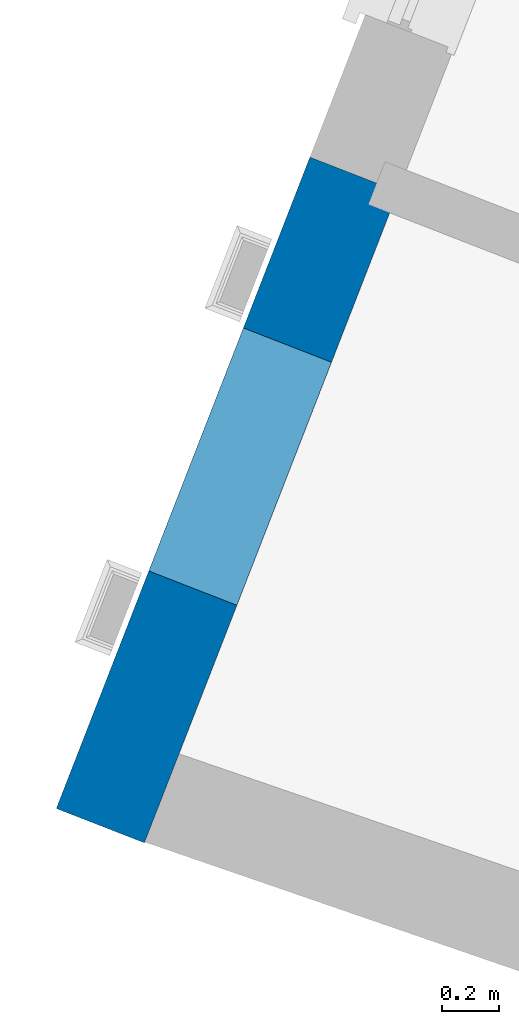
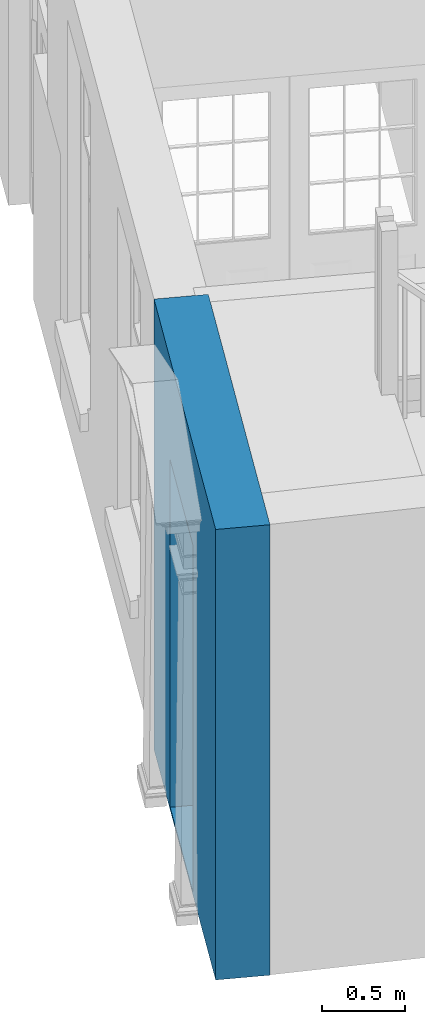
# One storey, part 2 of 6: 1 wall, 1 opening.
"""IFC4 building model written with IfcOpenShell, lengths in metres."""

from ifc_helpers import new_model, si_unit, frame, origin_with_axes, place, context, subcontext, project, spatial, polyline, outline, extrude, material, layer, layer_set, layer_usage, type_object, element, save


model = new_model("IFC4")

# Units and contexts
model_context = context("Model", 3, world=origin_with_axes())
body_context = subcontext(model_context, "Body", "Model", "MODEL_VIEW")
ifc_project = project(units=[si_unit("PLANEANGLEUNIT", "RADIAN"), si_unit("MASSUNIT", "GRAM", prefix="KILO"), si_unit("FORCEUNIT", "NEWTON", prefix="KILO"), si_unit("LENGTHUNIT", "METRE"), si_unit("AREAUNIT", "SQUARE_METRE"), si_unit("VOLUMEUNIT", "CUBIC_METRE")], contexts=[model_context, model_context])

# Sites, building, storey
site_1_placement = place(None, origin_with_axes())
site_1 = spatial("IfcSite", under=ifc_project, at=site_1_placement, Name="Tamar")
site_2_placement = place(site_1_placement, origin_with_axes())
site_2 = spatial("IfcSite", under=site_1, at=site_2_placement, Name="Site plot-9", CompositionType="ELEMENT")
building_placement = place(None, origin_with_axes())
building = spatial("IfcBuilding", under=site_2, at=building_placement, Name="Building plot-9", CompositionType="ELEMENT")
storey_placement = place(None, frame((0.0, 0.0, 26.8), z_axis=(0.0, 0.0, 1.0), x_axis=(1.0, 0.0, 0.0)))
storey = spatial("IfcBuildingStorey", under=building, at=storey_placement, Name="plot-9 0", CompositionType="ELEMENT", Elevation=26.8)

# Wall, opening
ifc_material = material(Name="Masonry")
ifc_layer = layer(ifc_material, 0.33, ventilated=False)
ifc_layer_set = layer_set([ifc_layer], Name="exterior_0.08_0.25")
ifc_layer_usage = layer_usage(ifc_layer_set, "AXIS2", "POSITIVE", -0.25)
wall_type = type_object("IfcWallType", Name="exterior_0.08_0.25", PredefinedType="SOLIDWALL", material=ifc_layer_set)
wall_placement = place(storey_placement, frame((224.416093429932, 317.211341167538, 0.0), z_axis=(0.0, 0.0, 1.0), x_axis=(-0.36280815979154, -0.931863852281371, 0.0)))
wall = element("IfcWall", 1, at=wall_placement, inside=storey, type_object=wall_type, material=ifc_layer_usage, Name="exterior", context=body_context, shape_type="SweptSolid", body=[
    extrude(outline(polyline([(1.07144995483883e-14, 0.0800000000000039), (-1.03457477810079e-13, -0.250000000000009), (2.43898171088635, -0.249999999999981), (2.43898171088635, 0.0800000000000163), (1.07144995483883e-14, 0.0800000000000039)])), origin_with_axes(), (0.0, 0.0, 1.0), 3.3),
])
opening_placement = place(wall_placement, frame((0.639490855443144, 0.0, 0.0199999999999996)))
element("IfcOpeningElement", 2, at=opening_placement, cuts=wall, Name="My Opening", ObjectType="Opening", context=body_context, shape_type="SweptSolid", body=[
    extrude(outline(polyline([(0.0, -0.270000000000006), (0.910000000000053, -0.269999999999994), (0.910000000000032, 1.09999999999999), (-2.1538326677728e-14, 1.09999999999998), (0.0, -0.270000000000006)])), origin_with_axes(), (0.0, 0.0, 1.0), 2.545),
])

save(model, "model.ifc")
